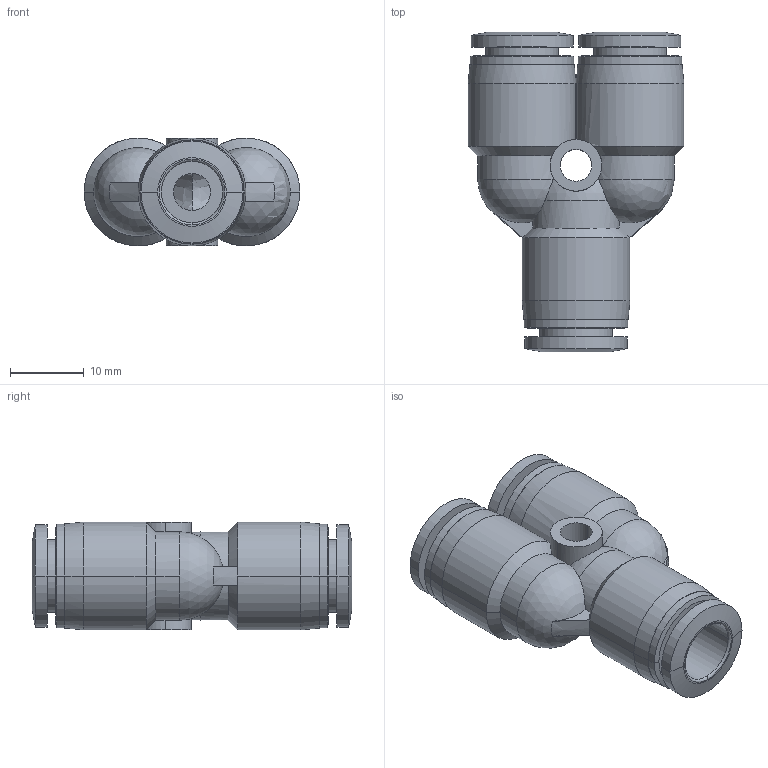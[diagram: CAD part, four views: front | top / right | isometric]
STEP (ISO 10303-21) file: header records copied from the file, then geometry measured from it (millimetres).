
FILE_DESCRIPTION (( 'STEP AP203' ), '1' );
FILE_NAME ('FY08-00.STEP', '2020-04-28T13:44:31', ( '' ), ( '' ), 'SwSTEP 2.0', 'SolidWorks 2019', '' );
FILE_SCHEMA (( 'CONFIG_CONTROL_DESIGN' ));
Length unit declared in the file: millimetre
Products named in the file (1): FY08-00
Bounding box: 29.2 x 43.2 x 14.6 mm (x, y, z)
Volume: 6748.1 mm3; surface area: 5634.7 mm2
Topology: 1 solids, 1 shells, 107 faces, 253 edges, 157 vertices
Faces by surface type: bspline 40, cylinder 30, plane 18, cone 16, sphere 3
Entity records: 4242 total; most frequent: CARTESIAN_POINT 1871, ORIENTED_EDGE 502, DIRECTION 455, EDGE_CURVE 251, AXIS2_PLACEMENT_3D 201, VERTEX_POINT 157, CIRCLE 133, EDGE_LOOP 124
